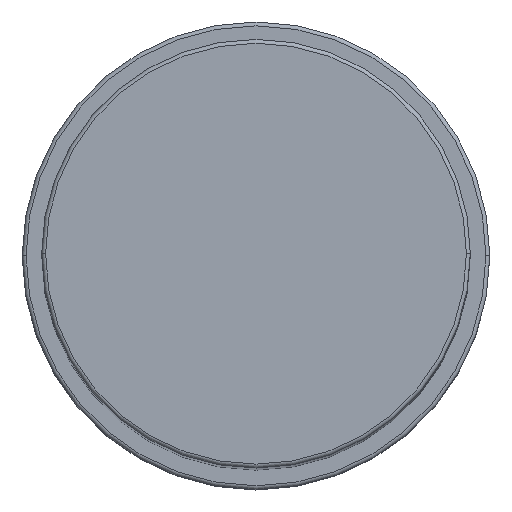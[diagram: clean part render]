
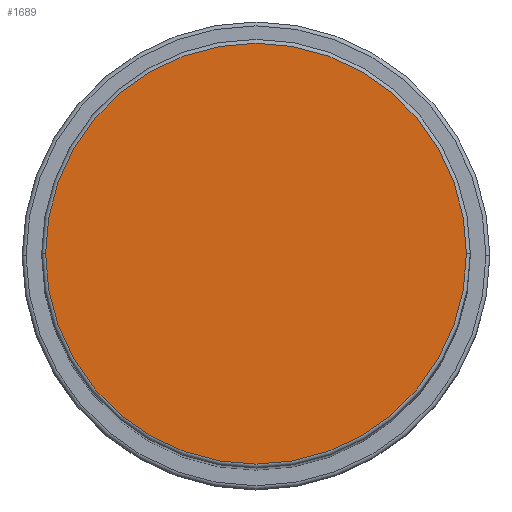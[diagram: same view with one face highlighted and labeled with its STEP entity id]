
A CAD part, top view. The second image highlights one B-rep face of the part: STEP entity #1689.
In plain terms, the highlighted planar face has unit normal (0, 0, 1).
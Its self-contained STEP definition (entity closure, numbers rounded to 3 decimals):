
#123 = FACE_OUTER_BOUND ( 'NONE', #1790, .T. ) ;
#290 = CARTESIAN_POINT ( 'NONE',  ( 0., 0., 168. ) ) ;
#294 = DIRECTION ( 'NONE',  ( 0., 0., 1. ) ) ;
#324 = ORIENTED_EDGE ( 'NONE', *, *, #639, .T. ) ;
#371 = VERTEX_POINT ( 'NONE', #774 ) ;
#441 = CIRCLE ( 'NONE', #904, 27. ) ;
#493 = AXIS2_PLACEMENT_3D ( 'NONE', #558, #1494, #1089 ) ;
#555 = EDGE_CURVE ( 'NONE', #1495, #371, #1597, .T. ) ;
#558 = CARTESIAN_POINT ( 'NONE',  ( 0., 0., 168. ) ) ;
#577 = DIRECTION ( 'NONE',  ( 1., 0., 0. ) ) ;
#639 = EDGE_CURVE ( 'NONE', #371, #1495, #441, .T. ) ;
#684 = DIRECTION ( 'NONE',  ( 1., 0., 0. ) ) ;
#694 = AXIS2_PLACEMENT_3D ( 'NONE', #1381, #1493, #684 ) ;
#701 = PLANE ( 'NONE',  #694 ) ;
#774 = CARTESIAN_POINT ( 'NONE',  ( 27., 0., 168. ) ) ;
#904 = AXIS2_PLACEMENT_3D ( 'NONE', #290, #294, #577 ) ;
#1089 = DIRECTION ( 'NONE',  ( 1., 0., 0. ) ) ;
#1207 = CARTESIAN_POINT ( 'NONE',  ( -27., 0., 168. ) ) ;
#1381 = CARTESIAN_POINT ( 'NONE',  ( 0., 0., 168. ) ) ;
#1493 = DIRECTION ( 'NONE',  ( 0., 0., 1. ) ) ;
#1494 = DIRECTION ( 'NONE',  ( 0., 0., 1. ) ) ;
#1495 = VERTEX_POINT ( 'NONE', #1207 ) ;
#1597 = CIRCLE ( 'NONE', #493, 27. ) ;
#1689 = ADVANCED_FACE ( 'NONE', ( #123 ), #701, .T. ) ;
#1778 = ORIENTED_EDGE ( 'NONE', *, *, #555, .T. ) ;
#1790 = EDGE_LOOP ( 'NONE', ( #324, #1778 ) ) ;
